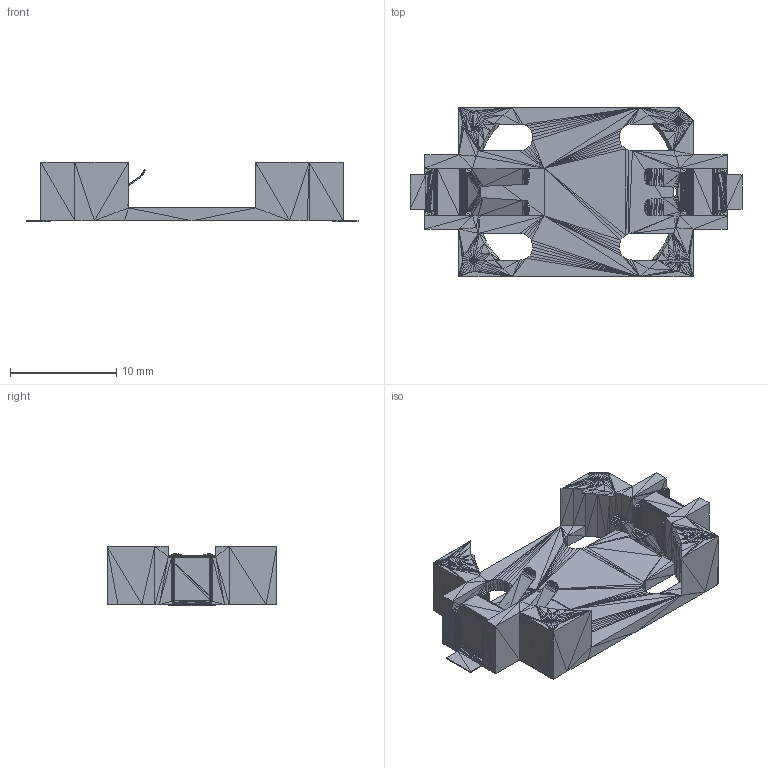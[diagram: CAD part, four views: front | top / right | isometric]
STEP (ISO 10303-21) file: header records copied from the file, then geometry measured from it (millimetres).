
FILE_DESCRIPTION(('auto-generated'),'2;1');
FILE_SCHEMA(('CONFIG_CONTROL_DESIGN'));
Bounding box: 31.3 x 16 x 5.6 mm (x, y, z)
Surface area: 1796.2 mm2 (no closed solid volume)
Topology: 0 solids, 22 shells, 6131 faces, 10261 edges, 4089 vertices
Faces by surface type: plane 6131
Entity records: 97891 total; most frequent: ORIENTED_EDGE 18393, DIRECTION 13444, LINE 10261, EDGE_CURVE 10261, VECTOR 6649, AXIS2_PLACEMENT_3D 6132, PLANE 6131, EDGE_LOOP 6131
